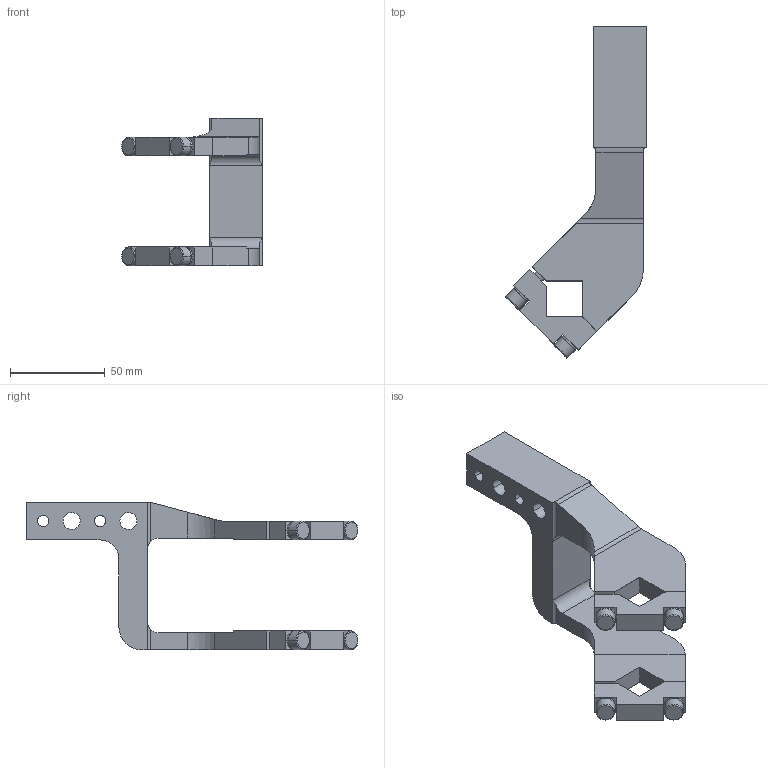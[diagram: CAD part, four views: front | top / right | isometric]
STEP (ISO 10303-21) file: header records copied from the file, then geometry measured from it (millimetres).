
FILE_DESCRIPTION(('CATIA V5 STEP Exchange'),'2;1');
FILE_NAME('E:\clampact\CLAMPACT\clampact\catalog\Clampact Arm\Arm 3D\Clampact Arm\arm_K50_15_A12_Clampact.stp','2022-12-06T07:54:46+00:00',('none'),('none'),'CATIA Version 5 Release 19 SP 6 (IN-10)','CATIA V5 STEP AP203','none');
FILE_SCHEMA(('CONFIG_CONTROL_DESIGN'));
Length unit declared in the file: millimetre
Products named in the file (1): K50_15_A12_Clampact_柯莱普
Bounding box: 74.05 x 175.05 x 78 mm (x, y, z)
Volume: 131993.3 mm3; surface area: 37785.3 mm2
Topology: 1 solids, 5 shells, 168 faces, 431 edges, 273 vertices
Faces by surface type: plane 82, cylinder 54, cone 20, torus 12
Entity records: 4967 total; most frequent: CARTESIAN_POINT 1169, ORIENTED_EDGE 846, DIRECTION 616, EDGE_CURVE 423, VERTEX_POINT 273, VECTOR 259, LINE 259, AXIS2_PLACEMENT_3D 239
